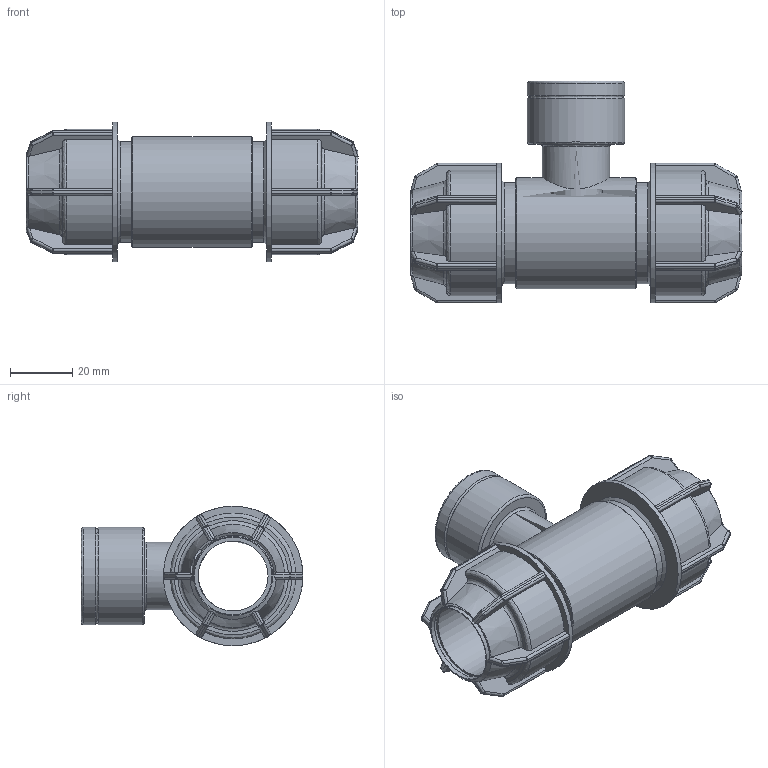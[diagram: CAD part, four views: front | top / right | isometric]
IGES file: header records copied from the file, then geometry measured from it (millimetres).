
Global section: file name: 041407025007.ipt; native system: Autodesk Inventor 2015; preprocessor: unknown; author: KIM; date: 20180409.130651; units: millimetre
Bounding box: 107 x 71.5 x 45 mm (x, y, z)
Volume: 71969.9 mm3; surface area: 31363.3 mm2
Topology: 1 solids, 1 shells, 416 faces, 993 edges, 584 vertices
Faces by surface type: plane 197, cylinder 116, sphere 48, revolution 39, cone 16
Full cylindrical faces by diameter (mm): 21.705 x1, 31.352 x2, 32.5 x2, 35.75 x1, 45 x2
